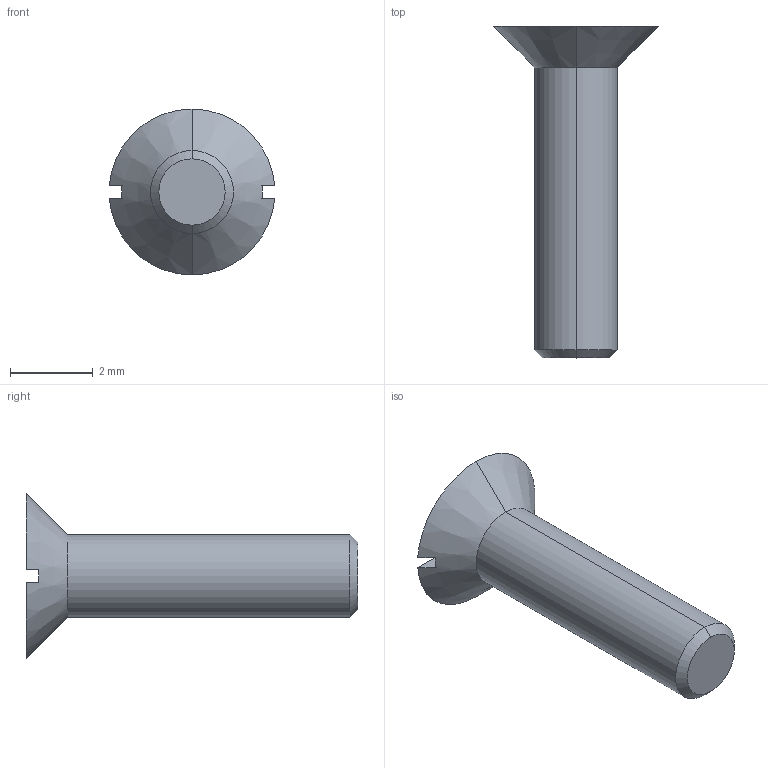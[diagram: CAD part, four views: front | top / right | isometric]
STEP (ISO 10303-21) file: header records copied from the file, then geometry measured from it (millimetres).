
FILE_DESCRIPTION (( 'STEP AP214' ), '1' );
FILE_NAME ('vite M2 x 8.STEP', '2016-02-27T09:45:14', ( '' ), ( '' ), 'SwSTEP 2.0', 'SolidWorks 2012', '' );
FILE_SCHEMA (( 'AUTOMOTIVE_DESIGN' ));
Length unit declared in the file: millimetre
Products named in the file (1): vite M2 x 8
Bounding box: 3.99 x 8 x 4 mm (x, y, z)
Volume: 28.9 mm3; surface area: 74 mm2
Topology: 1 solids, 1 shells, 12 faces, 26 edges, 16 vertices
Faces by surface type: plane 6, cone 4, cylinder 2
Entity records: 368 total; most frequent: CARTESIAN_POINT 67, DIRECTION 60, ORIENTED_EDGE 52, EDGE_CURVE 26, AXIS2_PLACEMENT_3D 25, VERTEX_POINT 16, ADVANCED_FACE 12, EDGE_LOOP 12
